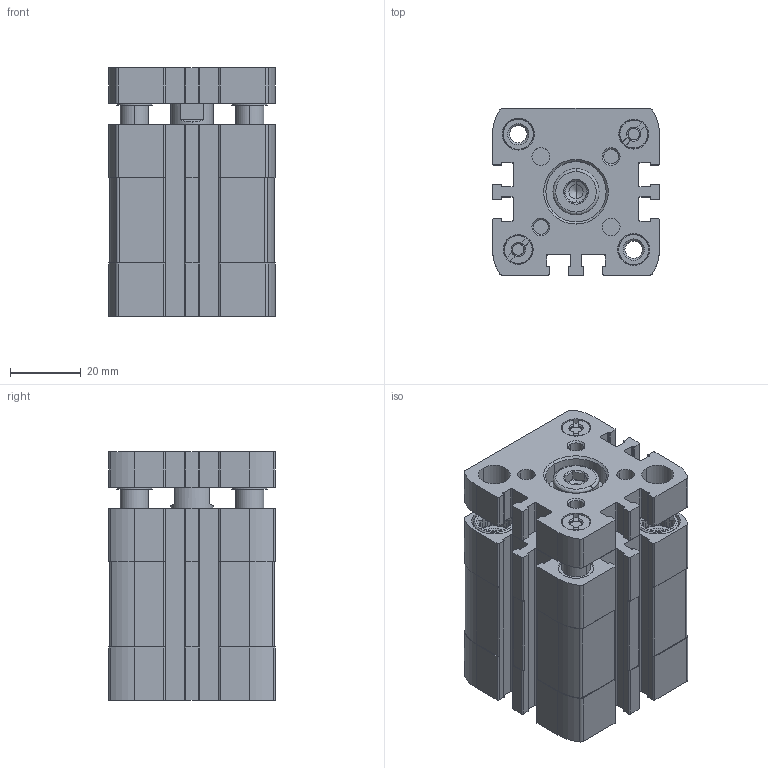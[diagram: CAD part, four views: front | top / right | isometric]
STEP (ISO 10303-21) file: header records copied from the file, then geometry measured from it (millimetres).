
FILE_DESCRIPTION (( 'STEP AP203' ), '1' );
FILE_NAME ('CCNG-32-10.STEP', '2017-04-13T18:38:52', ( '' ), ( '' ), 'SwSTEP 2.0', 'SolidWorks 2016', '' );
FILE_SCHEMA (( 'CONFIG_CONTROL_DESIGN' ));
Length unit declared in the file: millimetre
Products named in the file (3): CCNG-32-10---(Z); CCNG-32-10---(KS); CCNG-32-10
Assembly tree (2 placements, depth 2):
  CCNG-32-10
    CCNG-32-10---(Z)
    CCNG-32-10---(KS)
Bounding box: 47 x 47 x 70 mm (x, y, z)
Volume: 109139.3 mm3; surface area: 43171.7 mm2
Topology: 2 solids, 4 shells, 715 faces, 1924 edges, 1259 vertices
Faces by surface type: plane 363, cylinder 274, cone 72, bspline 6
Entity records: 23135 total; most frequent: CARTESIAN_POINT 4437, DIRECTION 3964, ORIENTED_EDGE 3844, EDGE_CURVE 1922, AXIS2_PLACEMENT_3D 1462, VERTEX_POINT 1259, LINE 1040, VECTOR 1040
